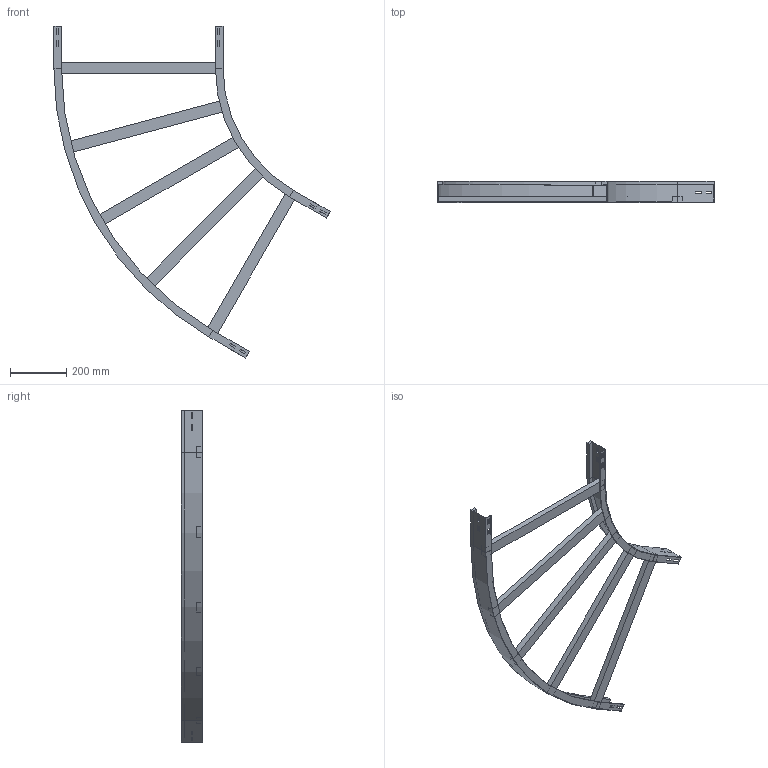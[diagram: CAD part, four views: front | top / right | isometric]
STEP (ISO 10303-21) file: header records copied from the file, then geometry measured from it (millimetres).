
FILE_DESCRIPTION (( 'STEP AP214' ), '1' );
FILE_NAME ('13B5C600.step', '2025-02-21T15:20:45', ( '' ), ( '' ), 'SwSTEP 2.0', 'SolidWorks 2023', '' );
FILE_SCHEMA (( 'AUTOMOTIVE_DESIGN' ));
Length unit declared in the file: millimetre
Products named in the file (4): 13B5C600; A2_LONGH.INTERNO 60°_H75_R500; A2_LONGH.ESTERNO 60°_H75_R500+600; TRAVERSINO_600
Assembly tree (7 placements, depth 2):
  13B5C600
    A2_LONGH.INTERNO 60°_H75_R500
    A2_LONGH.ESTERNO 60°_H75_R500+600
    TRAVERSINO_600  x5
Bounding box: 979.9 x 75 x 1177.63 mm (x, y, z)
Volume: 3300874.3 mm3; surface area: 904197.8 mm2
Topology: 7 solids, 7 shells, 146 faces, 364 edges, 232 vertices
Faces by surface type: plane 138, cylinder 8
Entity records: 3837 total; most frequent: CARTESIAN_POINT 648, ORIENTED_EDGE 632, DIRECTION 596, EDGE_CURVE 316, VECTOR 300, LINE 300, VERTEX_POINT 200, EDGE_LOOP 154
